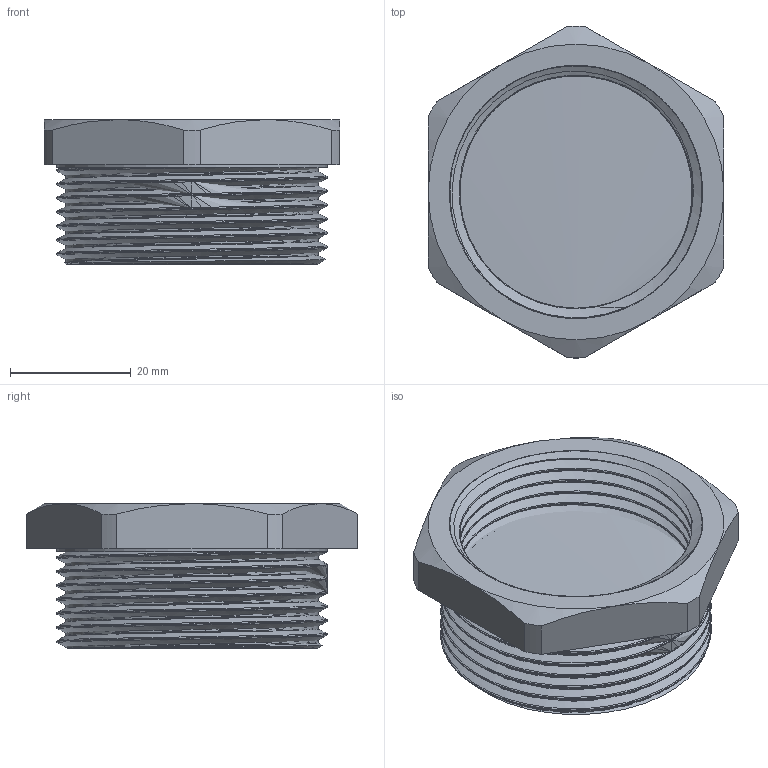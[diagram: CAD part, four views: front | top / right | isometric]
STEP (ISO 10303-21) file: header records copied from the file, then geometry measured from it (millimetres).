
FILE_DESCRIPTION(/* description */ (''),/* implementation_level */ '2;1');
FILE_NAME(/* name */ 'C:\Users\Doom\Desktop\Фадотех\Резьба\PF09 18.03.2020\PF09 18.03.2020.stp',/* time_stamp */ '2022-01-14T01:33:32+02:00',/* author */ ('Doom'),/* organization */ (''),/* preprocessor_version */ 'ST-DEVELOPER v18',/* originating_system */ 'Autodesk Inventor 2020',/* authorisation */ '');
FILE_SCHEMA (('AUTOMOTIVE_DESIGN { 1 0 10303 214 3 1 1 }'));
Length unit declared in the file: millimetre
Products named in the file (1): PF07 18.03.2020
Bounding box: 49 x 54.99 x 24 mm (x, y, z)
Volume: 14387.4 mm3; surface area: 19398.9 mm2
Topology: 3 solids, 3 shells, 65 faces, 171 edges, 112 vertices
Faces by surface type: cylinder 30, plane 13, bspline 12, cone 10
Full cylindrical faces by diameter (mm): 38.486 x9, 41.416 x1, 41.91 x2, 44.84 x8
Entity records: 11576 total; most frequent: CARTESIAN_POINT 10105, ORIENTED_EDGE 342, DIRECTION 229, EDGE_CURVE 171, VERTEX_POINT 112, AXIS2_PLACEMENT_3D 94, B_SPLINE_CURVE_WITH_KNOTS 78, EDGE_LOOP 71
